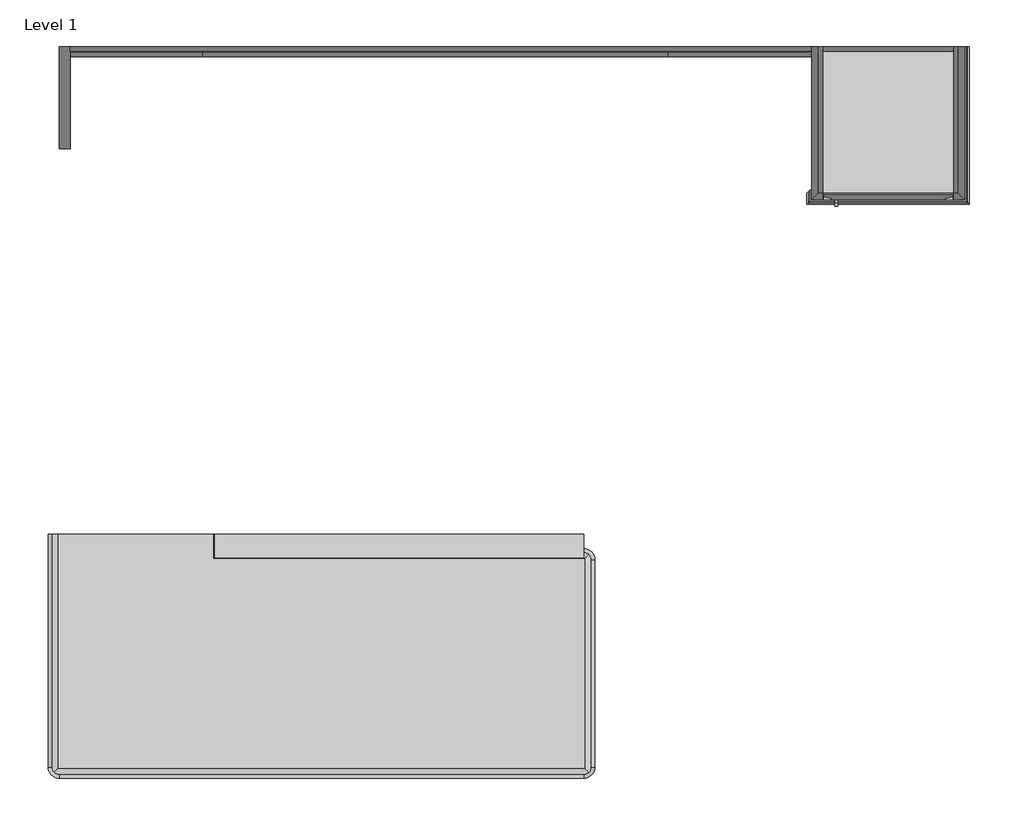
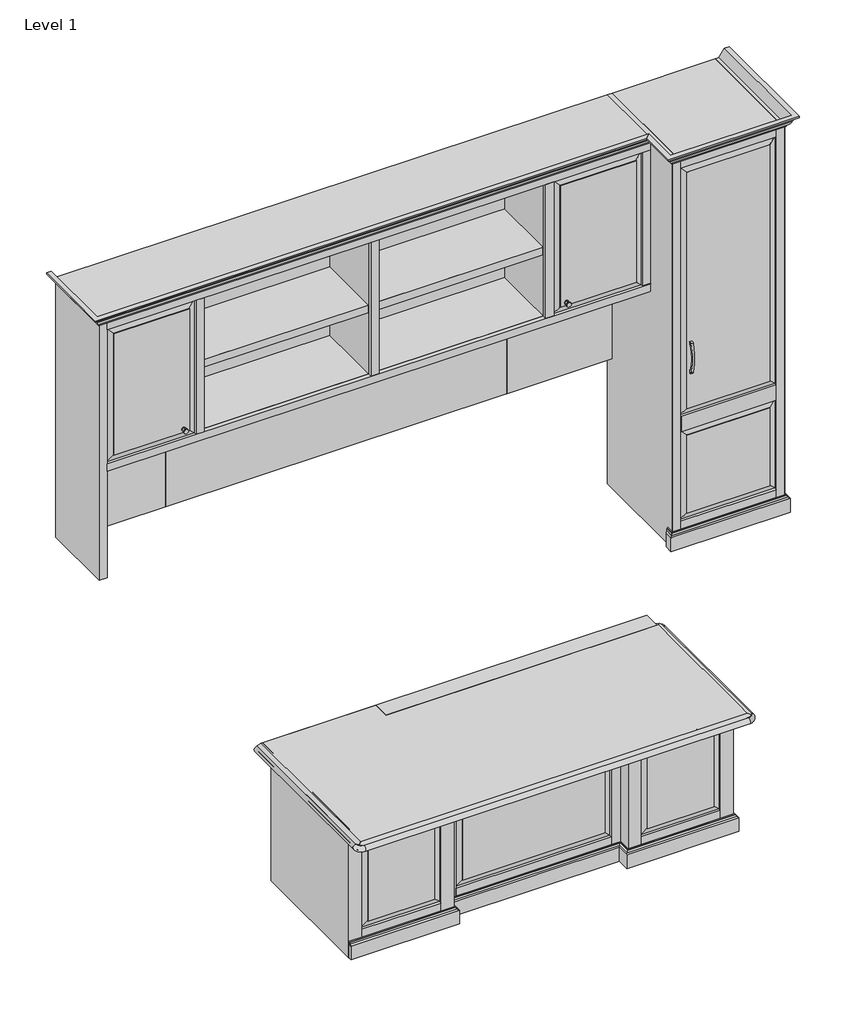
# One storey, incomplete: 3 proxies.
"""IFC4 building model written with IfcOpenShell, lengths in millimetres."""

from ifc_helpers import new_model, si_unit, origin, place, context, project, spatial, transform, mapped, element, save
from components import generic_models_3481949a, generic_models_9f4ddb43, generic_models_d91ada1b

model = new_model("IFC4")

# Units and contexts
model_context = context("Model", 3, world=origin())
ifc_project = project(units=[si_unit("LENGTHUNIT", "METRE", prefix="MILLI")], contexts=[model_context])

# Site, building, storey
site = spatial("IfcSite", under=ifc_project)
building = spatial("IfcBuilding", under=site)
storey = spatial("IfcBuildingStorey", under=building, Name="Level 1", Elevation=0.0)

# Proxies
placement = place(None, origin())
generic_models_shape = generic_models_3481949a(model_context)
element("IfcBuildingElementProxy", 1, Name="CCN^BRIGHTON_L1 HIGH RISE-4 DOOR SOLID ASSEMBLY", ObjectType="CCN^BRIGHTON_L1 HIGH RISE-4 DOOR SOLID ASSEMBLY", at=placement, inside=storey, context=model_context, shape_type="MappedRepresentation", body=[
    mapped(generic_models_shape, transform((0.0, 0.0, 742.95), x_axis=(1.0, 0.0, 0.0), y_axis=(0.0, 0.0, 1.0), z_axis=(0.0, -1.0, 0.0))),
])
generic_models_2_shape = generic_models_9f4ddb43(model_context)
element("IfcBuildingElementProxy", 2, Name="CCN^BRIGHTON_L1 36x84 LT FIXED DESK-SINGLE PED PARTS SOLID", ObjectType="CCN^BRIGHTON_L1 36x84 LT FIXED DESK-SINGLE PED PARTS SOLID", at=placement, inside=storey, context=model_context, shape_type="MappedRepresentation", body=[
    mapped(generic_models_2_shape, transform((0.0, -1943.1, 0.0), x_axis=(1.0, 0.0, 0.0), y_axis=(0.0, 0.0, 1.0), z_axis=(0.0, -1.0, 0.0))),
])
generic_models_3_shape = generic_models_d91ada1b(model_context)
element("IfcBuildingElementProxy", 3, Name="CCN^BRIGHTON_L1 24x24 RT WARDROBE-PARTS SOLID", ObjectType="CCN^BRIGHTON_L1 24x24 RT WARDROBE-PARTS SOLID", at=placement, inside=storey, context=model_context, shape_type="MappedRepresentation", body=[
    mapped(generic_models_3_shape, transform((3408.6612544, -290.6953109, 1166.8638559), x_axis=(1.0, 0.0, 0.0), y_axis=(0.0, 0.0, 1.0), z_axis=(0.0, -1.0, 0.0))),
])

save(model, "model.ifc")
